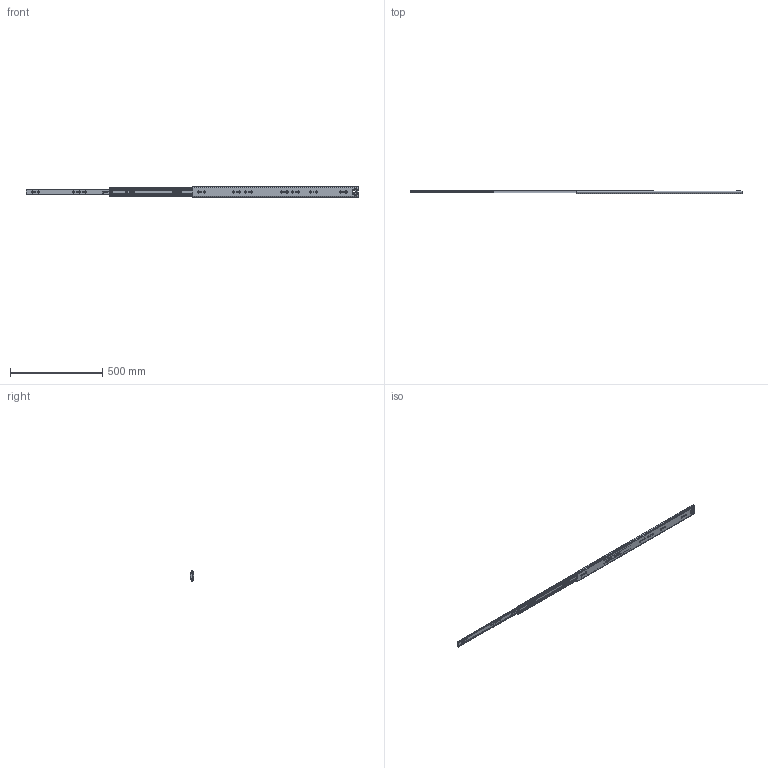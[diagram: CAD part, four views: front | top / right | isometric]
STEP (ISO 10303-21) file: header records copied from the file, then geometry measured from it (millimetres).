
FILE_DESCRIPTION((''),'2;1');
FILE_NAME('1057-02-36_ASM','2023-12-23T',('jishu015'),(''),'PRO/ENGINEER BY PARAMETRIC TECHNOLOGY CORPORATION, 2010280','PRO/ENGINEER BY PARAMETRIC TECHNOLOGY CORPORATION, 2010280','');
FILE_SCHEMA(('CONFIG_CONTROL_DESIGN'));
Products named in the file (14): KP-57-01WEIKE-18__________; 1057WEIJIAO__________; 1057DAZHUJIA-14GE__________; 1057-5-6GANZHU__________; 1057DAZHUJIA-14GE___________ASM; KP-57-01ZHONGGUI-18__________; 57-ZHONGGUIDINWEIJIAN__________; KP-57-01ZHONGGUI-18___________ASM; 1057XIAOZHUJIA__________; 1057XIAOZHUJIA-14GE___________ASM; KP-57-01NEIGUI-18__________; 45TIEBACHA__________; KP-57-01NEIGUI-18___________ASM; 1057-02-36_ASM
Assembly tree (144 placements, depth 3):
  1057-02-36_ASM
    KP-57-01WEIKE-18__________
    1057WEIJIAO__________
    1057DAZHUJIA-14GE___________ASM
      1057DAZHUJIA-14GE__________
      1057-5-6GANZHU__________  x64
    KP-57-01ZHONGGUI-18___________ASM
      KP-57-01ZHONGGUI-18__________
      57-ZHONGGUIDINWEIJIAN__________
    1057XIAOZHUJIA-14GE___________ASM
      1057XIAOZHUJIA__________
      1057-5-6GANZHU__________  x68
    KP-57-01NEIGUI-18___________ASM
      KP-57-01NEIGUI-18__________
      45TIEBACHA__________
Bounding box: 1800 x 19 x 57.67 mm (x, y, z)
Volume: 391890.9 mm3; surface area: 459615.5 mm2
Topology: 140 solids, 142 shells, 3619 faces, 10170 edges, 6296 vertices
Faces by surface type: plane 1675, cylinder 1488, sphere 272, cone 106, bspline 72, torus 6
Entity records: 113262 total; most frequent: CARTESIAN_POINT 23042, DIRECTION 19160, ORIENTED_EDGE 18740, EDGE_CURVE 9372, AXIS2_PLACEMENT_3D 6571, VERTEX_POINT 6034, VECTOR 6018, LINE 6018
